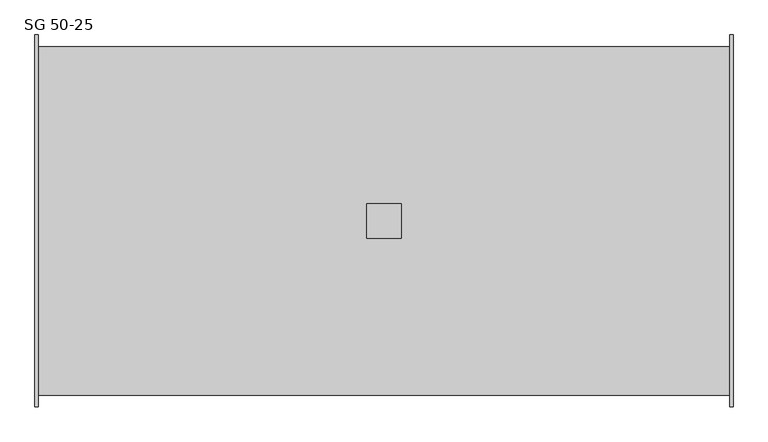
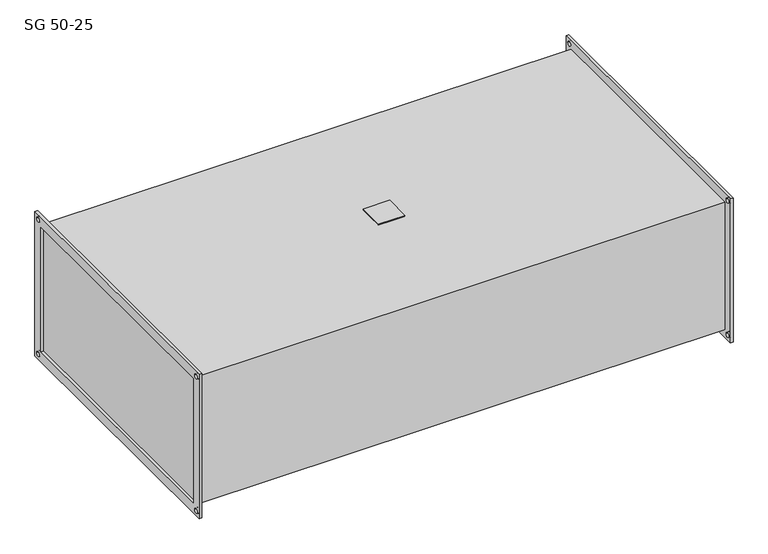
"""IFC4 building model written with IfcOpenShell, lengths in millimetres: damper geometry, KORF_Шумоглушитель_SG : SG 50-25."""

import ifcopenshell
import ifcopenshell.guid

model = None  # the IFC model being written
_history = None  # IfcOwnerHistory: only IFC2X3 demands one
_inside = {}  # id of a spatial element -> (the spatial element, [elements in it])
_under = {}  # id of a project, library or spatial element -> (it, [spatial elements below it])
_declared = {}  # id of a project -> (the project, [libraries it declares])
_typed = {}  # id of a type object -> (the type object, [elements of that type])
_made_of = {}  # id of a material, layer set ... -> (it, [elements and type objects made of it])


def new_model(schema):
    """Start an empty IFC model of exactly this schema.

    Asked for "IFC4X3", IfcOpenShell would pick the latest addendum, in which some entities
    have other attributes; the version numbers below select the first issue.
    IFC2X3 requires an IfcOwnerHistory on every rooted entity: one is made here for all.
    """
    global model, _history
    if schema == "IFC4X3":
        model = ifcopenshell.file(schema_version=(4, 3, 0, 0))
    else:
        model = ifcopenshell.file(schema=schema)
    _inside.clear()
    _under.clear()
    _declared.clear()
    _typed.clear()
    _made_of.clear()
    _history = None
    if model.schema == "IFC2X3":
        org = make("IfcOrganization", Name="unknown")
        user = make(
            "IfcPersonAndOrganization",
            ThePerson=make("IfcPerson", FamilyName="unknown"),
            TheOrganization=org,
        )
        app = make(
            "IfcApplication",
            ApplicationDeveloper=org,
            Version="unknown",
            ApplicationFullName="unknown",
            ApplicationIdentifier="unknown",
        )
        _history = make(
            "IfcOwnerHistory",
            OwningUser=user,
            OwningApplication=app,
            ChangeAction="ADDED",
            CreationDate=0,
        )
    return model


def make(cls, **values):
    """One entity of the class cls with the attributes given. An attribute that is None is left unset."""
    return model.create_entity(
        cls, **{name: value for name, value in values.items() if value is not None}
    )


def rooted(cls, **values):
    """An entity with a GlobalId (a new one), such as an element, a storey or a relation."""
    return make(cls, GlobalId=ifcopenshell.guid.new(), OwnerHistory=_history, **values)


def si_unit(unit_type, name, prefix=None):
    """IfcSIUnit, for example si_unit("LENGTHUNIT", "METRE", prefix="MILLI")."""
    return make("IfcSIUnit", UnitType=unit_type, Prefix=prefix, Name=name)


def assignment(units):
    """IfcUnitAssignment: the units of a project."""
    return None if units is None else make("IfcUnitAssignment", Units=units)


def point(xyz):
    """IfcCartesianPoint."""
    return None if xyz is None else make("IfcCartesianPoint", Coordinates=xyz)


def direction(xyz):
    """IfcDirection."""
    return None if xyz is None else make("IfcDirection", DirectionRatios=xyz)


def frame(location, z_axis=None, x_axis=None):
    """IfcAxis2Placement3D, a coordinate frame: its origin and axes. An axis left out is left unset."""
    return make(
        "IfcAxis2Placement3D",
        Location=point(location),
        Axis=direction(z_axis),
        RefDirection=direction(x_axis),
    )


def frame_2d(location, x_axis=None):
    """IfcAxis2Placement2D, a coordinate frame in the plane: its origin and x axis."""
    return make(
        "IfcAxis2Placement2D", Location=point(location), RefDirection=direction(x_axis)
    )


def origin():
    """The frame at (0, 0, 0) with its axes left unset."""
    return frame((0.0, 0.0, 0.0))


def place(relative_to, where):
    """IfcLocalPlacement: puts the frame where relative to a parent placement (None: the world)."""
    return make(
        "IfcLocalPlacement", PlacementRelTo=relative_to, RelativePlacement=where
    )


def context(
    kind, dimensions, precision=None, world=None, true_north=None, identifier=None
):
    """IfcGeometricRepresentationContext, for example the 3D "Model" context."""
    return make(
        "IfcGeometricRepresentationContext",
        ContextIdentifier=identifier,
        ContextType=kind,
        CoordinateSpaceDimension=dimensions,
        Precision=precision,
        WorldCoordinateSystem=world,
        TrueNorth=true_north,
    )


def project(units=None, contexts=None):
    """IfcProject with its units and contexts."""
    return rooted(
        "IfcProject",
        Name="project",
        RepresentationContexts=contexts,
        UnitsInContext=assignment(units),
    )


def spatial(cls, under=None, at=None, **own):
    """A site, building, storey or space (cls), placed at a placement, below another one or the project."""
    s = rooted(cls, ObjectPlacement=at, **own)
    if under is not None:
        _under.setdefault(under.id(), (under, []))[1].append(s)
    return s


def polyline(points):
    """IfcPolyline through the points."""
    return make("IfcPolyline", Points=[point(p) for p in points])


def circle_curve(where, radius):
    """IfcCircle in the frame where."""
    return make("IfcCircle", Position=where, Radius=radius)


def trimmed(basis, trim1, trim2, sense, master):
    """IfcTrimmedCurve: the piece of a basis curve between two trims."""
    return make(
        "IfcTrimmedCurve",
        BasisCurve=basis,
        Trim1=trim1,
        Trim2=trim2,
        SenseAgreement=sense,
        MasterRepresentation=master,
    )


def segment(curve, same_sense, transition):
    """IfcCompositeCurveSegment."""
    return make(
        "IfcCompositeCurveSegment",
        Transition=transition,
        SameSense=same_sense,
        ParentCurve=curve,
    )


def composite_curve(segments, self_intersect=None):
    """IfcCompositeCurve: segments joined end to end."""
    return make("IfcCompositeCurve", Segments=segments, SelfIntersect=self_intersect)


def outline(outer, holes=None, kind="AREA"):
    """IfcArbitraryClosedProfileDef: a profile drawn as a closed curve; with holes, ...WithVoids."""
    if holes is None:
        return make("IfcArbitraryClosedProfileDef", ProfileType=kind, OuterCurve=outer)
    return make(
        "IfcArbitraryProfileDefWithVoids",
        ProfileType=kind,
        OuterCurve=outer,
        InnerCurves=holes,
    )


def extrude(swept, where, along, depth):
    """IfcExtrudedAreaSolid: the profile swept, set in the frame where, extruded along a direction by depth."""
    return make(
        "IfcExtrudedAreaSolid",
        SweptArea=swept,
        Position=where,
        ExtrudedDirection=direction(along),
        Depth=depth,
    )


def shape(context_of_items, identifier, shape_type, items):
    """IfcShapeRepresentation: the items that make up one representation, for example the "Body"."""
    return make(
        "IfcShapeRepresentation",
        ContextOfItems=context_of_items,
        RepresentationIdentifier=identifier,
        RepresentationType=shape_type,
        Items=items,
    )


def source(mapping_origin, context_of_items, identifier, shape_type, items):
    """IfcRepresentationMap: a shape defined once, which mapped items show again and again."""
    return make(
        "IfcRepresentationMap",
        MappingOrigin=mapping_origin,
        MappedRepresentation=shape(context_of_items, identifier, shape_type, items),
    )


def transform(
    local_origin,
    x_axis=None,
    y_axis=None,
    z_axis=None,
    scale=None,
    scale2=None,
    scale3=None,
    uniform=True,
):
    """IfcCartesianTransformationOperator3D, or its non-uniform kind. x_axis, y_axis, z_axis: its Axis1, 2, 3."""
    if uniform:
        return make(
            "IfcCartesianTransformationOperator3D",
            Axis1=direction(x_axis),
            Axis2=direction(y_axis),
            LocalOrigin=point(local_origin),
            Scale=scale,
            Axis3=direction(z_axis),
        )
    return make(
        "IfcCartesianTransformationOperator3DnonUniform",
        Axis1=direction(x_axis),
        Axis2=direction(y_axis),
        LocalOrigin=point(local_origin),
        Scale=scale,
        Axis3=direction(z_axis),
        Scale2=scale2,
        Scale3=scale3,
    )


def mapped(mapping_source, mapping_target):
    """IfcMappedItem: shows the shape of a source again, moved by a transform."""
    return make(
        "IfcMappedItem", MappingSource=mapping_source, MappingTarget=mapping_target
    )


def made_of(thing, what):
    """Note that an element or type object is made of a material, layer set ...; save() writes the relation."""
    if what is not None:
        _made_of.setdefault(what.id(), (what, []))[1].append(thing)
    return thing


def element(
    cls,
    number,
    at=None,
    inside=None,
    cuts=None,
    type_object=None,
    material=None,
    context=None,
    identifier="Body",
    shape_type=None,
    held_by="IfcProductDefinitionShape",
    body=None,
    shapes=None,
    **own,
):
    """One element of the class cls, such as IfcWall. Its Tag is "e" and its number.

    at: its placement. inside: the storey or other place that contains it. cuts: it is an
    opening in that element (IfcRelVoidsElement). A single representation is given by context,
    identifier, shape_type and body (its items); several are given by shapes. held_by: the class
    of the entity that holds the representations. save() writes the other relations.
    """
    e = rooted(cls, Tag="e%d" % number, ObjectPlacement=at, **own)
    if body is not None:
        shapes = [shape(context, identifier, shape_type, body)]
    if shapes is not None:
        e.Representation = make(held_by, Representations=shapes)
    if inside is not None:
        _inside.setdefault(inside.id(), (inside, []))[1].append(e)
    if cuts is not None:
        rooted(
            "IfcRelVoidsElement", RelatingBuildingElement=cuts, RelatedOpeningElement=e
        )
    if type_object is not None:
        _typed.setdefault(type_object.id(), (type_object, []))[1].append(e)
    return made_of(e, material)


def aggregate(whole, parts):
    """IfcRelAggregates: a whole, such as a stair, and the parts it consists of."""
    return rooted("IfcRelAggregates", RelatingObject=whole, RelatedObjects=parts)


def save(model, path):
    """Write the relations noted so far, then the file.

    IfcRelAggregates (storeys below a building ...), IfcRelContainedInSpatialStructure (elements
    in a storey), IfcRelDefinesByType, IfcRelAssociatesMaterial and IfcRelDeclares: one each for
    every whole, place, type object, material and project.
    """
    for whole, parts in _under.values():
        aggregate(whole, parts)
    for where, things in _inside.values():
        rooted(
            "IfcRelContainedInSpatialStructure",
            RelatedElements=things,
            RelatingStructure=where,
        )
    for kind, things in _typed.values():
        rooted("IfcRelDefinesByType", RelatedObjects=things, RelatingType=kind)
    for what, things in _made_of.values():
        rooted("IfcRelAssociatesMaterial", RelatedObjects=things, RelatingMaterial=what)
    for by, libraries in _declared.values():
        rooted("IfcRelDeclares", RelatingContext=by, RelatedDefinitions=libraries)
    model.write(path)


def sg_50_25_c6de3e1b(model_context):
    return source(origin(), model_context, "Body", "SweptSolid", [
        extrude(outline(polyline([(482.0, -25.0), (482.0, 25.0), (532.0, 25.0), (532.0, -25.0), (482.0, -25.0)])), frame((0.0, 0.0, 128.0), z_axis=(0.0, 0.0, 1.0), x_axis=(1.0, 0.0, 0.0)), (0.0, 0.0, 1.0), 2.0),
        extrude(outline(polyline([(-270.0, 145.0), (270.0, 145.0), (270.0, -145.0), (-270.0, -145.0), (-270.0, 145.0)]), holes=[polyline([(-250.0, 125.0), (-250.0, -125.0), (250.0, -125.0), (250.0, 125.0), (-250.0, 125.0)]), composite_curve([segment(trimmed(circle_curve(frame_2d((260.0, 135.0)), 4.5), [point((255.5, 135.0))], [point((264.5, 135.0))], True, "CARTESIAN"), True, "CONTINUOUS"), segment(trimmed(circle_curve(frame_2d((260.0, 135.0)), 4.5), [point((264.5, 135.0))], [point((255.5, 135.0))], True, "CARTESIAN"), True, "CONTINUOUS")], self_intersect=False), composite_curve([segment(trimmed(circle_curve(frame_2d((-260.0, 135.0)), 4.5), [point((-264.5, 135.0))], [point((-255.5, 135.0))], True, "CARTESIAN"), True, "CONTINUOUS"), segment(trimmed(circle_curve(frame_2d((-260.0, 135.0)), 4.5), [point((-255.5, 135.0))], [point((-264.5, 135.0))], True, "CARTESIAN"), True, "CONTINUOUS")], self_intersect=False), composite_curve([segment(trimmed(circle_curve(frame_2d((-260.0, -135.0)), 4.5), [point((-264.5, -135.0))], [point((-255.5, -135.0))], True, "CARTESIAN"), True, "CONTINUOUS"), segment(trimmed(circle_curve(frame_2d((-260.0, -135.0)), 4.5), [point((-255.5, -135.0))], [point((-264.5, -135.0))], True, "CARTESIAN"), True, "CONTINUOUS")], self_intersect=False), composite_curve([segment(trimmed(circle_curve(frame_2d((260.0, -135.0)), 4.5), [point((255.5, -135.0))], [point((264.5, -135.0))], True, "CARTESIAN"), True, "CONTINUOUS"), segment(trimmed(circle_curve(frame_2d((260.0, -135.0)), 4.5), [point((264.5, -135.0))], [point((255.5, -135.0))], True, "CARTESIAN"), True, "CONTINUOUS")], self_intersect=False)]), frame((1009.0, 0.0, 0.0), z_axis=(1.0, 0.0, 0.0), x_axis=(0.0, 1.0, 0.0)), (0.0, 0.0, 1.0), 5.0),
        extrude(outline(polyline([(-270.0, 145.0), (270.0, 145.0), (270.0, -145.0), (-270.0, -145.0), (-270.0, 145.0)]), holes=[polyline([(-250.0, 125.0), (-250.0, -125.0), (250.0, -125.0), (250.0, 125.0), (-250.0, 125.0)]), composite_curve([segment(trimmed(circle_curve(frame_2d((260.0, 135.0)), 4.5), [point((255.5, 135.0))], [point((264.5, 135.0))], True, "CARTESIAN"), True, "CONTINUOUS"), segment(trimmed(circle_curve(frame_2d((260.0, 135.0)), 4.5), [point((264.5, 135.0))], [point((255.5, 135.0))], True, "CARTESIAN"), True, "CONTINUOUS")], self_intersect=False), composite_curve([segment(trimmed(circle_curve(frame_2d((-260.0, 135.0)), 4.5), [point((-264.5, 135.0))], [point((-255.5, 135.0))], True, "CARTESIAN"), True, "CONTINUOUS"), segment(trimmed(circle_curve(frame_2d((-260.0, 135.0)), 4.5), [point((-255.5, 135.0))], [point((-264.5, 135.0))], True, "CARTESIAN"), True, "CONTINUOUS")], self_intersect=False), composite_curve([segment(trimmed(circle_curve(frame_2d((-260.0, -135.0)), 4.5), [point((-264.5, -135.0))], [point((-255.5, -135.0))], True, "CARTESIAN"), True, "CONTINUOUS"), segment(trimmed(circle_curve(frame_2d((-260.0, -135.0)), 4.5), [point((-255.5, -135.0))], [point((-264.5, -135.0))], True, "CARTESIAN"), True, "CONTINUOUS")], self_intersect=False), composite_curve([segment(trimmed(circle_curve(frame_2d((260.0, -135.0)), 4.5), [point((255.5, -135.0))], [point((264.5, -135.0))], True, "CARTESIAN"), True, "CONTINUOUS"), segment(trimmed(circle_curve(frame_2d((260.0, -135.0)), 4.5), [point((264.5, -135.0))], [point((255.5, -135.0))], True, "CARTESIAN"), True, "CONTINUOUS")], self_intersect=False)]), frame((0.0, 0.0, 0.0), z_axis=(1.0, 0.0, 0.0), x_axis=(0.0, 1.0, 0.0)), (0.0, 0.0, 1.0), 5.0),
        extrude(outline(polyline([(1009.0, 253.0), (1009.0, -253.0), (5.0, -253.0), (5.0, 253.0), (1009.0, 253.0)])), frame((0.0, 0.0, -128.0), z_axis=(0.0, 0.0, 1.0), x_axis=(1.0, 0.0, 0.0)), (0.0, 0.0, 1.0), 256.0),
    ])


if __name__ == "__main__":
    model = new_model("IFC4")
    model_context = context("Model", 3, world=origin())
    ifc_project = project(units=[si_unit("LENGTHUNIT", "METRE", prefix="MILLI")], contexts=[model_context])
    site = spatial("IfcSite", under=ifc_project)
    building = spatial("IfcBuilding", under=site)
    placement = place(None, origin())
    sg_50_25_shape = sg_50_25_c6de3e1b(model_context)
    element("IfcDamper", 1, ObjectType="KORF_Шумоглушитель_SG : SG 50-25", at=placement, inside=building, context=model_context, shape_type="MappedRepresentation", body=[
        mapped(sg_50_25_shape, transform((0.0, 0.0, 0.0), x_axis=(1.0, 0.0, 0.0), y_axis=(0.0, 1.0, 0.0), z_axis=(0.0, 0.0, 1.0))),
    ])
    save(model, "model.ifc")
